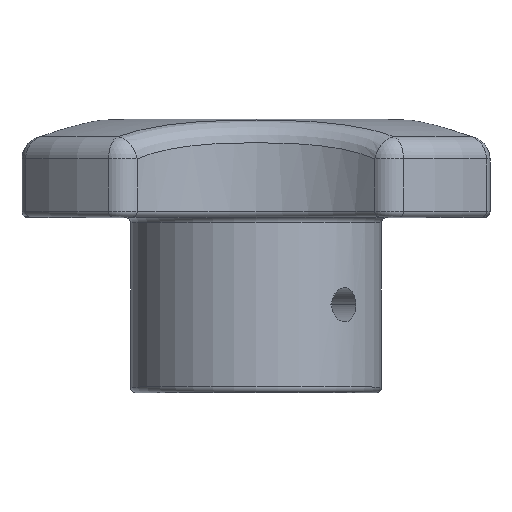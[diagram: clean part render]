
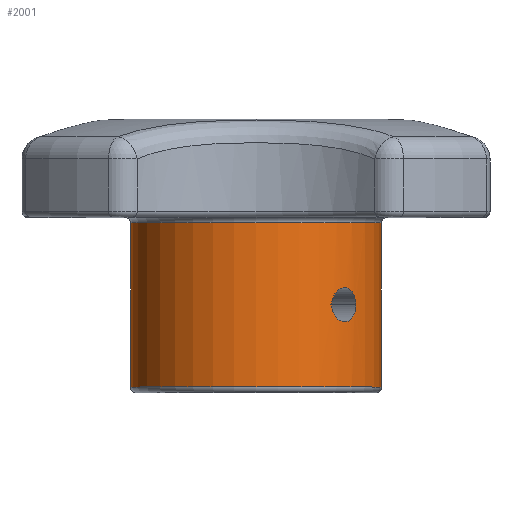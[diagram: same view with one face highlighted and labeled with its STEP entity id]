
A CAD part, top view. The second image highlights one B-rep face of the part: STEP entity #2001.
In plain terms, the highlighted cylindrical face has radius 11 mm (diameter 22 mm), a partial arc.
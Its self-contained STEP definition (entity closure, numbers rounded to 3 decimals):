
#32 = EDGE_LOOP ( 'NONE', ( #2711, #1114 ) ) ;
#45 = DIRECTION ( 'NONE',  ( 0., -1., 0. ) ) ;
#85 = AXIS2_PLACEMENT_3D ( 'NONE', #1967, #1515, #2592 ) ;
#89 = DIRECTION ( 'NONE',  ( 0., 1., 0. ) ) ;
#118 = LINE ( 'NONE', #257, #2399 ) ;
#144 = CARTESIAN_POINT ( 'NONE',  ( 8.404, 8.899, 7.099 ) ) ;
#145 = CARTESIAN_POINT ( 'NONE',  ( 6.677, 7.307, 8.742 ) ) ;
#148 = CARTESIAN_POINT ( 'NONE',  ( 6.766, 8.365, 8.673 ) ) ;
#149 = CARTESIAN_POINT ( 'NONE',  ( 8.234, 6.352, 7.294 ) ) ;
#257 = CARTESIAN_POINT ( 'NONE',  ( -11., 0., 0. ) ) ;
#273 = CARTESIAN_POINT ( 'NONE',  ( 11., 0., 0. ) ) ;
#358 = CARTESIAN_POINT ( 'NONE',  ( 8.053, 9.16, 7.496 ) ) ;
#359 = CARTESIAN_POINT ( 'NONE',  ( 6.884, 6.778, 8.581 ) ) ;
#366 = CARTESIAN_POINT ( 'NONE',  ( 6.684, 8.09, 8.737 ) ) ;
#367 = CARTESIAN_POINT ( 'NONE',  ( 8.398, 6.506, 7.105 ) ) ;
#371 = CIRCLE ( 'NONE', #2007, 11. ) ;
#417 = B_SPLINE_CURVE_WITH_KNOTS ( 'NONE', 3,
 ( #577, #1917, #804, #2344, #1021, #2563, #1260, #2771, #1476, #144, #1697, #358, #1924, #588, #2131, #808, #2358, #1029, #2568, #1269, #2780, #1486, #148, #1710, #366, #1937, #598, #2142 ),
 .UNSPECIFIED., .F., .F.,
 ( 4, 2, 2, 2, 2, 2, 2, 2, 2, 2, 2, 2, 2, 4 ),
 ( 0., 0., 0.001, 0.001, 0.001, 0.002, 0.002, 0.003, 0.003, 0.004, 0.004, 0.004, 0.004, 0.005 ),
 .UNSPECIFIED. ) ;
#517 = CARTESIAN_POINT ( 'NONE',  ( 0., 14.9, 0. ) ) ;
#527 = CYLINDRICAL_SURFACE ( 'NONE', #85, 11. ) ;
#534 = EDGE_CURVE ( 'NONE', #2857, #2561, #2573, .T. ) ;
#544 = AXIS2_PLACEMENT_3D ( 'NONE', #517, #45, #1171 ) ;
#563 = VERTEX_POINT ( 'NONE', #849 ) ;
#577 = CARTESIAN_POINT ( 'NONE',  ( 8.766, 7.7, 6.645 ) ) ;
#588 = CARTESIAN_POINT ( 'NONE',  ( 7.709, 9.2, 7.847 ) ) ;
#590 = CARTESIAN_POINT ( 'NONE',  ( 7.104, 6.508, 8.399 ) ) ;
#591 = FACE_BOUND ( 'NONE', #32, .T. ) ;
#598 = CARTESIAN_POINT ( 'NONE',  ( 6.645, 7.798, 8.766 ) ) ;
#599 = CARTESIAN_POINT ( 'NONE',  ( 8.58, 6.777, 6.885 ) ) ;
#804 = CARTESIAN_POINT ( 'NONE',  ( 8.76, 7.897, 6.653 ) ) ;
#808 = CARTESIAN_POINT ( 'NONE',  ( 7.498, 9.152, 8.049 ) ) ;
#809 = CARTESIAN_POINT ( 'NONE',  ( 7.293, 6.353, 8.235 ) ) ;
#814 = CARTESIAN_POINT ( 'NONE',  ( 8.742, 7.304, 6.677 ) ) ;
#821 = ORIENTED_EDGE ( 'NONE', *, *, #2862, .T. ) ;
#829 = VERTEX_POINT ( 'NONE', #1865 ) ;
#849 = CARTESIAN_POINT ( 'NONE',  ( 6.645, 7.7, 8.766 ) ) ;
#974 = CARTESIAN_POINT ( 'NONE',  ( 11., 14.9, 0. ) ) ;
#1010 = EDGE_LOOP ( 'NONE', ( #821, #1470, #1370, #2752 ) ) ;
#1021 = CARTESIAN_POINT ( 'NONE',  ( 8.719, 8.184, 6.707 ) ) ;
#1029 = CARTESIAN_POINT ( 'NONE',  ( 7.227, 9.011, 8.295 ) ) ;
#1030 = CARTESIAN_POINT ( 'NONE',  ( 7.637, 6.2, 7.919 ) ) ;
#1044 = CARTESIAN_POINT ( 'NONE',  ( 8.766, 7.7, 6.645 ) ) ;
#1053 = CARTESIAN_POINT ( 'NONE',  ( -11., 0.5, 0. ) ) ;
#1114 = ORIENTED_EDGE ( 'NONE', *, *, #1582, .F. ) ;
#1171 = DIRECTION ( 'NONE',  ( 1., 0., 0. ) ) ;
#1260 = CARTESIAN_POINT ( 'NONE',  ( 8.644, 8.452, 6.803 ) ) ;
#1269 = CARTESIAN_POINT ( 'NONE',  ( 6.938, 8.691, 8.537 ) ) ;
#1270 = CARTESIAN_POINT ( 'NONE',  ( 7.916, 6.21, 7.639 ) ) ;
#1366 = VERTEX_POINT ( 'NONE', #2506 ) ;
#1370 = ORIENTED_EDGE ( 'NONE', *, *, #534, .T. ) ;
#1425 = CARTESIAN_POINT ( 'NONE',  ( 0., 0.5, 0. ) ) ;
#1461 = B_SPLINE_CURVE_WITH_KNOTS ( 'NONE', 3,
 ( #1472, #2345, #145, #1698, #359, #1925, #590, #2132, #809, #2359, #1030, #2569, #1270, #2782, #1487, #149, #1711, #367, #1938, #599, #2144, #814, #2368, #1044 ),
 .UNSPECIFIED., .F., .F.,
 ( 4, 2, 2, 2, 2, 2, 2, 2, 2, 2, 2, 4 ),
 ( 0.005, 0.005, 0.006, 0.006, 0.006, 0.007, 0.007, 0.008, 0.008, 0.008, 0.009, 0.009 ),
 .UNSPECIFIED. ) ;
#1470 = ORIENTED_EDGE ( 'NONE', *, *, #1930, .T. ) ;
#1472 = CARTESIAN_POINT ( 'NONE',  ( 6.645, 7.7, 8.766 ) ) ;
#1476 = CARTESIAN_POINT ( 'NONE',  ( 8.536, 8.692, 6.938 ) ) ;
#1486 = CARTESIAN_POINT ( 'NONE',  ( 6.804, 8.453, 8.644 ) ) ;
#1487 = CARTESIAN_POINT ( 'NONE',  ( 8.112, 6.276, 7.429 ) ) ;
#1515 = DIRECTION ( 'NONE',  ( 0., 1., 0. ) ) ;
#1582 = EDGE_CURVE ( 'NONE', #563, #1366, #1461, .T. ) ;
#1652 = DIRECTION ( 'NONE',  ( 1., 0., 0. ) ) ;
#1668 = VERTEX_POINT ( 'NONE', #1053 ) ;
#1697 = CARTESIAN_POINT ( 'NONE',  ( 8.295, 9.011, 7.227 ) ) ;
#1698 = CARTESIAN_POINT ( 'NONE',  ( 6.796, 6.946, 8.65 ) ) ;
#1710 = CARTESIAN_POINT ( 'NONE',  ( 6.706, 8.183, 8.719 ) ) ;
#1711 = CARTESIAN_POINT ( 'NONE',  ( 8.291, 6.398, 7.229 ) ) ;
#1813 = DIRECTION ( 'NONE',  ( 0., 1., 0. ) ) ;
#1832 = DIRECTION ( 'NONE',  ( 0., 1., 0. ) ) ;
#1865 = CARTESIAN_POINT ( 'NONE',  ( 11., 0.5, 0. ) ) ;
#1878 = EDGE_CURVE ( 'NONE', #1668, #2561, #118, .T. ) ;
#1917 = CARTESIAN_POINT ( 'NONE',  ( 8.766, 7.799, 6.645 ) ) ;
#1924 = CARTESIAN_POINT ( 'NONE',  ( 7.917, 9.2, 7.639 ) ) ;
#1925 = CARTESIAN_POINT ( 'NONE',  ( 7.045, 6.571, 8.448 ) ) ;
#1930 = EDGE_CURVE ( 'NONE', #829, #2857, #2833, .T. ) ;
#1937 = CARTESIAN_POINT ( 'NONE',  ( 6.653, 7.897, 8.76 ) ) ;
#1938 = CARTESIAN_POINT ( 'NONE',  ( 8.447, 6.57, 7.046 ) ) ;
#1967 = CARTESIAN_POINT ( 'NONE',  ( 0., 0., 0. ) ) ;
#2001 = ADVANCED_FACE ( 'NONE', ( #591, #2291 ), #527, .T. ) ;
#2007 = AXIS2_PLACEMENT_3D ( 'NONE', #1425, #89, #1652 ) ;
#2123 = CARTESIAN_POINT ( 'NONE',  ( -11., 14.9, 0. ) ) ;
#2131 = CARTESIAN_POINT ( 'NONE',  ( 7.638, 9.19, 7.916 ) ) ;
#2132 = CARTESIAN_POINT ( 'NONE',  ( 7.228, 6.399, 8.292 ) ) ;
#2142 = CARTESIAN_POINT ( 'NONE',  ( 6.645, 7.7, 8.766 ) ) ;
#2144 = CARTESIAN_POINT ( 'NONE',  ( 8.649, 6.944, 6.797 ) ) ;
#2271 = EDGE_CURVE ( 'NONE', #1366, #563, #417, .T. ) ;
#2273 = VECTOR ( 'NONE', #1832, 1000. ) ;
#2291 = FACE_OUTER_BOUND ( 'NONE', #1010, .T. ) ;
#2344 = CARTESIAN_POINT ( 'NONE',  ( 8.737, 8.089, 6.683 ) ) ;
#2345 = CARTESIAN_POINT ( 'NONE',  ( 6.645, 7.504, 8.766 ) ) ;
#2358 = CARTESIAN_POINT ( 'NONE',  ( 7.429, 9.124, 8.112 ) ) ;
#2359 = CARTESIAN_POINT ( 'NONE',  ( 7.496, 6.239, 8.053 ) ) ;
#2368 = CARTESIAN_POINT ( 'NONE',  ( 8.766, 7.502, 6.645 ) ) ;
#2399 = VECTOR ( 'NONE', #1813, 1000. ) ;
#2506 = CARTESIAN_POINT ( 'NONE',  ( 8.766, 7.7, 6.645 ) ) ;
#2561 = VERTEX_POINT ( 'NONE', #2123 ) ;
#2563 = CARTESIAN_POINT ( 'NONE',  ( 8.673, 8.366, 6.767 ) ) ;
#2568 = CARTESIAN_POINT ( 'NONE',  ( 7.1, 8.901, 8.403 ) ) ;
#2569 = CARTESIAN_POINT ( 'NONE',  ( 7.848, 6.2, 7.709 ) ) ;
#2573 = CIRCLE ( 'NONE', #544, 11. ) ;
#2592 = DIRECTION ( 'NONE',  ( -1., 0., 0. ) ) ;
#2711 = ORIENTED_EDGE ( 'NONE', *, *, #2271, .F. ) ;
#2752 = ORIENTED_EDGE ( 'NONE', *, *, #1878, .F. ) ;
#2771 = CARTESIAN_POINT ( 'NONE',  ( 8.576, 8.615, 6.889 ) ) ;
#2780 = CARTESIAN_POINT ( 'NONE',  ( 6.889, 8.615, 8.576 ) ) ;
#2782 = CARTESIAN_POINT ( 'NONE',  ( 8.048, 6.248, 7.5 ) ) ;
#2833 = LINE ( 'NONE', #273, #2273 ) ;
#2857 = VERTEX_POINT ( 'NONE', #974 ) ;
#2862 = EDGE_CURVE ( 'NONE', #1668, #829, #371, .T. ) ;
